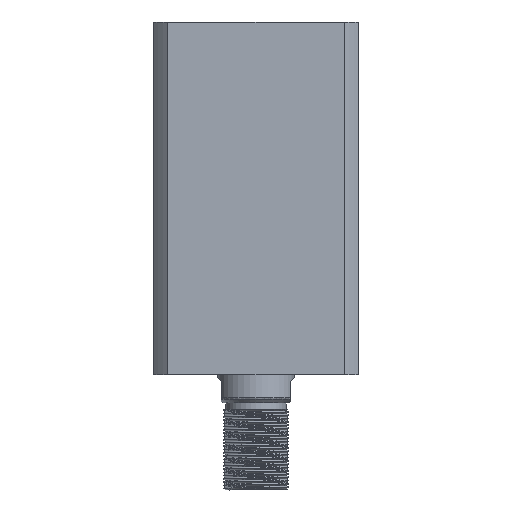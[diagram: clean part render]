
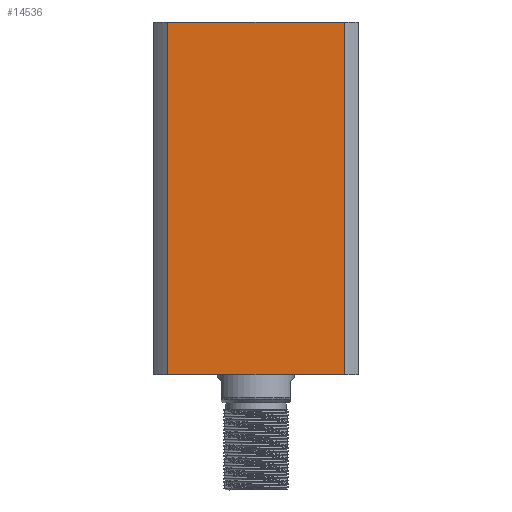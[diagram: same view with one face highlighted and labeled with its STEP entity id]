
A CAD part, front view. The second image highlights one B-rep face of the part: STEP entity #14536.
In plain terms, the highlighted planar face has unit normal (0, -1, 0) as drawn and (0, 1, 0) by its records, which use the part's own axes.
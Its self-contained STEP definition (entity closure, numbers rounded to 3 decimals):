
#376 = VECTOR ( 'NONE', #2911, 1000. ) ;
#936 = FACE_OUTER_BOUND ( 'NONE', #17700, .T. ) ;
#2911 = DIRECTION ( 'NONE',  ( -1., 0., 0. ) ) ;
#2987 = VERTEX_POINT ( 'NONE', #9921 ) ;
#3350 = EDGE_CURVE ( 'NONE', #17963, #21254, #16251, .T. ) ;
#3441 = PLANE ( 'NONE',  #11804 ) ;
#3531 = DIRECTION ( 'NONE',  ( 0., 0., -1. ) ) ;
#3692 = CARTESIAN_POINT ( 'NONE',  ( 40.435, 47., 162. ) ) ;
#5523 = DIRECTION ( 'NONE',  ( -1., 0., 0. ) ) ;
#5556 = CARTESIAN_POINT ( 'NONE',  ( -47., 47., 162. ) ) ;
#5619 = VECTOR ( 'NONE', #3531, 1000. ) ;
#7002 = DIRECTION ( 'NONE',  ( 0., 0., -1. ) ) ;
#7201 = EDGE_CURVE ( 'NONE', #2987, #15067, #10255, .T. ) ;
#9921 = CARTESIAN_POINT ( 'NONE',  ( 40.435, 47., 0. ) ) ;
#10255 = LINE ( 'NONE', #11736, #376 ) ;
#10912 = LINE ( 'NONE', #12374, #5619 ) ;
#11232 = CARTESIAN_POINT ( 'NONE',  ( 40.435, 47., -138. ) ) ;
#11378 = DIRECTION ( 'NONE',  ( 0., 0., 1. ) ) ;
#11736 = CARTESIAN_POINT ( 'NONE',  ( -47., 47., 0. ) ) ;
#11804 = AXIS2_PLACEMENT_3D ( 'NONE', #17447, #22486, #7002 ) ;
#12079 = CARTESIAN_POINT ( 'NONE',  ( -40.435, 47., 0. ) ) ;
#12374 = CARTESIAN_POINT ( 'NONE',  ( -40.435, 47., -138. ) ) ;
#12720 = ORIENTED_EDGE ( 'NONE', *, *, #3350, .F. ) ;
#14536 = ADVANCED_FACE ( 'NONE', ( #936 ), #3441, .F. ) ;
#15067 = VERTEX_POINT ( 'NONE', #12079 ) ;
#15134 = ORIENTED_EDGE ( 'NONE', *, *, #7201, .T. ) ;
#15137 = CARTESIAN_POINT ( 'NONE',  ( -40.435, 47., 162. ) ) ;
#16251 = LINE ( 'NONE', #5556, #21278 ) ;
#16299 = EDGE_CURVE ( 'NONE', #2987, #17963, #22316, .T. ) ;
#17447 = CARTESIAN_POINT ( 'NONE',  ( -47., 47., 162. ) ) ;
#17700 = EDGE_LOOP ( 'NONE', ( #20831, #15134, #18237, #12720 ) ) ;
#17822 = VECTOR ( 'NONE', #11378, 1000. ) ;
#17963 = VERTEX_POINT ( 'NONE', #3692 ) ;
#18237 = ORIENTED_EDGE ( 'NONE', *, *, #21830, .F. ) ;
#20831 = ORIENTED_EDGE ( 'NONE', *, *, #16299, .F. ) ;
#21254 = VERTEX_POINT ( 'NONE', #15137 ) ;
#21278 = VECTOR ( 'NONE', #5523, 1000. ) ;
#21830 = EDGE_CURVE ( 'NONE', #21254, #15067, #10912, .T. ) ;
#22316 = LINE ( 'NONE', #11232, #17822 ) ;
#22486 = DIRECTION ( 'NONE',  ( 0., -1., 0. ) ) ;
